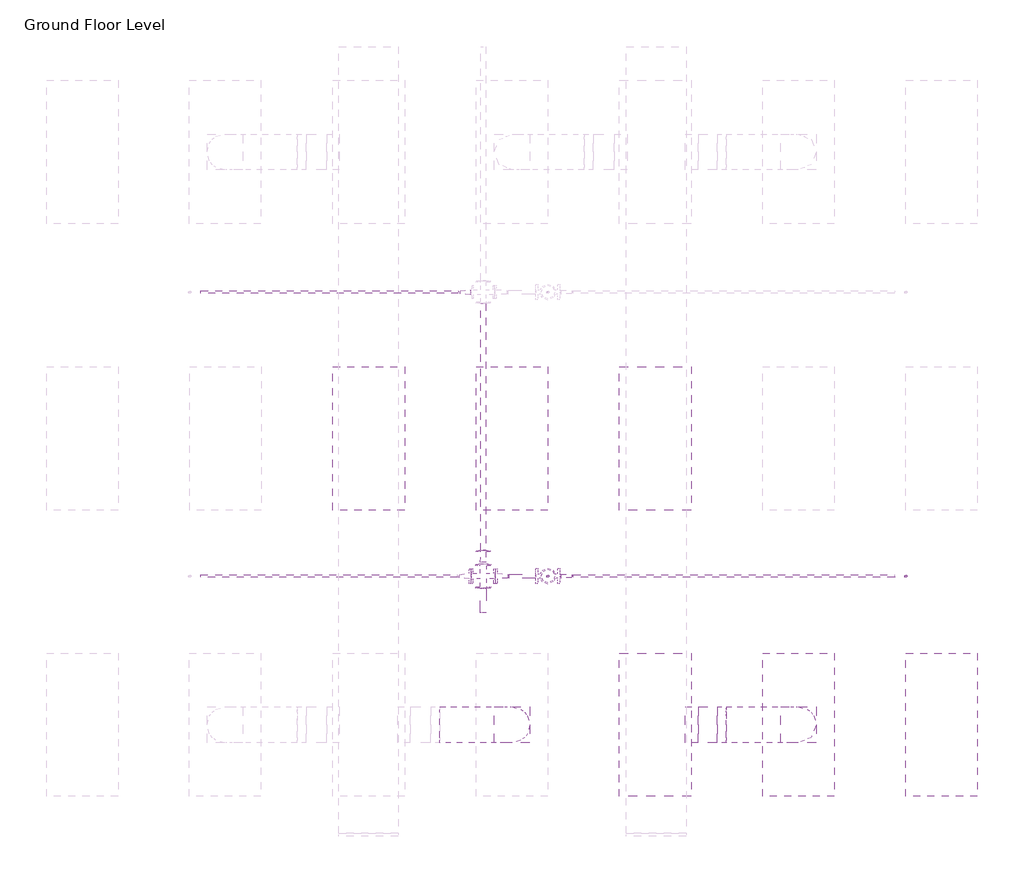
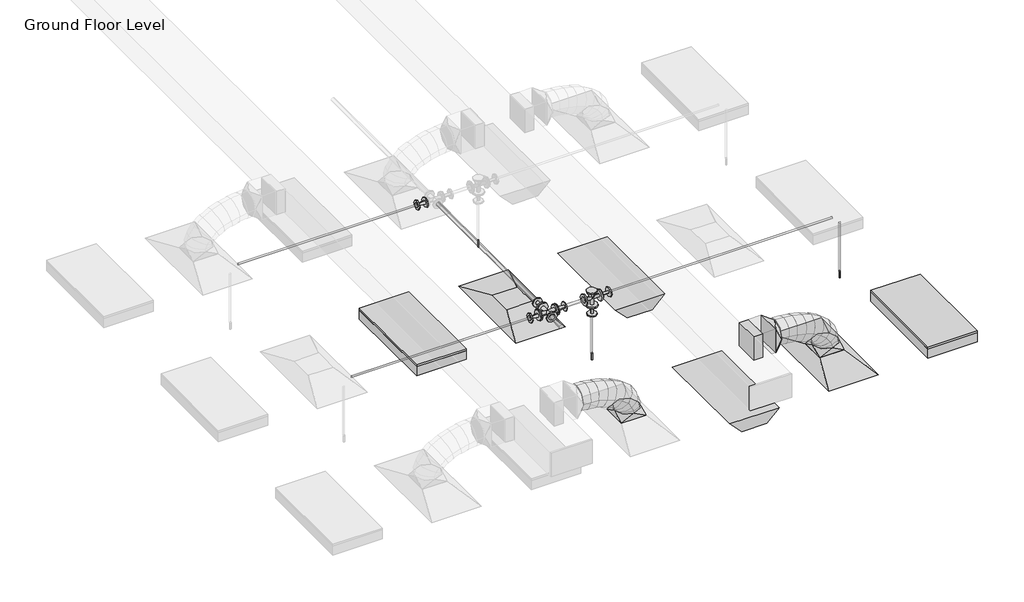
# One storey, part 44 of 66: 8 pipe fittings, 8 pipe segments, 4 duct fittings, 4 light fixtures, 3 duct segments, 3 fire suppression terminals, 2 air terminals.
"""IFC4 building model written with IfcOpenShell, lengths in millimetres."""

from ifc_helpers import new_model, si_unit, point, frame, frame_2d, origin, place, context, project, spatial, polyline, circle_curve, ellipse_curve, trimmed, segment, composite_curve, outline, extrude, transform, mapped, element, save
from ifc_brep_helpers import plane_surface, cylinder_surface, advanced_brep
from components import m_return_diffuser_1200x600_1200_x_600_face_300_x_300_d1983ef6, m_rectangular_takeoff_standard_cb0ccb98, m_rectangular_to_round_transition_angle_45_degree_641efff0, m_sprinkler_dry_pendent_hosted_15_mm_dry_pendent_9bda8e11, m_emergency_recessed_lighting_fixture_600x1200_277_5b10b25d, m_troffer_light_parabolic_rectangular1_0600x1200mm_4_lamp_86473d4a, m_cross_flanged_cs_class_150_standard_fc817054, m_reducer_flanged_cs_class_150_standard_ccf252ad, m_reducer_flanged_cs_class_150_standard_d42b2106, m_reducer_flanged_cs_class_150_standard_cc2a7c1d, m_reducer_flanged_cs_class_150_standard_83138b42, m_reducer_flanged_cs_class_150_standard_564df86d, m_reducer_flanged_cs_class_150_standard_8338f9e4, m_tee_round_base_flanged_cs_class_150_standard_7e5987a1

model = new_model("IFC4")

# Units and contexts
model_context = context("Model", 3, world=origin())
ifc_project = project(units=[si_unit("LENGTHUNIT", "METRE", prefix="MILLI")], contexts=[model_context])

# Site, building, storey
site = spatial("IfcSite", under=ifc_project)
building = spatial("IfcBuilding", under=site)
storey = spatial("IfcBuildingStorey", under=building, Name="Ground Floor Level", Elevation=900.0)

# Air terminals
placement = place(None, origin())
m_return_diffuser_1200x600_1200_x_600_face_300_x_300_shape = m_return_diffuser_1200x600_1200_x_600_face_300_x_300_d1983ef6(model_context)
element("IfcAirTerminal", 1, ObjectType="M_Return Diffuser 1200x600 : 1200 x 600 Face 300 x 300 Connection", at=placement, inside=storey, context=model_context, shape_type="MappedRepresentation", body=[
    mapped(m_return_diffuser_1200x600_1200_x_600_face_300_x_300_shape, transform((-5737.2327605, 4035.2153534, 3650.0), x_axis=(0.0, 1.0, 0.0), y_axis=(-1.0, 0.0, 0.0), z_axis=(0.0, 0.0, 1.0))),
])
element("IfcAirTerminal", 2, ObjectType="M_Supply Diffuser 1200x600 : 1200 x 600 Face 300 x 300 Connection", at=placement, inside=storey, context=model_context, shape_type="MappedRepresentation", body=[
    mapped(m_return_diffuser_1200x600_1200_x_600_face_300_x_300_shape, transform((-3337.2327605, 1635.2153534, 3650.0), x_axis=(0.0, 1.0, 0.0), y_axis=(-1.0, 0.0, 0.0), z_axis=(0.0, 0.0, 1.0))),
])

# Duct fittings
m_rectangular_takeoff_standard_shape = m_rectangular_takeoff_standard_cb0ccb98(model_context)
element("IfcDuctFitting", 3, ObjectType="M_Rectangular Takeoff : Standard", at=placement, inside=storey, context=model_context, shape_type="MappedRepresentation", body=[
    mapped(m_rectangular_takeoff_standard_shape, transform((-4278.6910789, 1635.2153534, 4150.0), x_axis=(1.0, 0.0, 0.0), y_axis=(0.0, -1.0, 0.0), z_axis=(0.0, 0.0, -1.0))),
])
m_rectangular_to_round_transition_angle_45_degree_shape = m_rectangular_to_round_transition_angle_45_degree_641efff0(model_context)
element("IfcDuctFitting", 4, ObjectType="M_Rectangular to Round Transition - Angle : 45 Degree", at=placement, inside=storey, context=model_context, shape_type="MappedRepresentation", body=[
    mapped(m_rectangular_to_round_transition_angle_45_degree_shape, transform((-5737.2327605, 1635.2153534, 3751.6), x_axis=(0.0, 0.0, 1.0), y_axis=(-1.0, 0.0, 0.0), z_axis=(0.0, -1.0, 0.0))),
])
element("IfcDuctFitting", 5, ObjectType="M_Rectangular to Round Transition - Angle : 45 Degree", at=placement, inside=storey, context=model_context, shape_type="MappedRepresentation", body=[
    mapped(m_rectangular_to_round_transition_angle_45_degree_shape, transform((-3337.2327605, 1635.2153534, 3751.6), x_axis=(0.0, 0.0, 1.0), y_axis=(-1.0, 0.0, 0.0), z_axis=(0.0, -1.0, 0.0))),
])
element("IfcDuctFitting", 6, ObjectType="M_Rectangular to Round Transition - Angle : 45 Degree", at=placement, inside=storey, context=model_context, shape_type="MappedRepresentation", body=[
    mapped(m_rectangular_to_round_transition_angle_45_degree_shape, transform((-4018.6354231, 1635.2153534, 4150.0), x_axis=(1.0, 0.0, 0.0), y_axis=(0.0, 1.0, 0.0), z_axis=(0.0, 0.0, 1.0))),
])

# Duct segments
element("IfcDuctSegment", 7, ObjectType="Flex - Round", at=placement, inside=storey, context=model_context, shape_type="AdvancedBrep", body=[
    advanced_brep(
    [(-5587.2327605, 1635.2153534, 3826.6), (-5737.2327605, 1485.2153534, 3826.6), (-5887.2327605, 1635.2153534, 3826.6), (-5737.2327605, 1785.2153534, 3826.6), (-5587.2327605, 1635.2153534, 3882.1261126), (-5737.2327605, 1485.2153534, 3857.3049615), (-5887.2327605, 1635.2153534, 3832.4838104), (-5737.2327605, 1785.2153534, 3857.3049615), (-5618.4260847, 1635.2153534, 3973.7995287), (-5753.8941651, 1485.2153534, 3906.2708192), (-5889.3622454, 1635.2153534, 3838.7421096), (-5753.8941651, 1785.2153534, 3906.2708192), (-5688.1600922, 1635.2153534, 4076.4123668), (-5799.7721827, 1485.2153534, 3973.7798261), (-5911.3842733, 1635.2153534, 3871.1472855), (-5799.7721827, 1785.2153534, 3973.7798261), (-5786.0880408, 1635.2153534, 4155.7111802), (-5868.7075193, 1485.2153534, 4029.6013814), (-5951.3269979, 1635.2153534, 3903.4915826), (-5868.7075193, 1785.2153534, 4029.6013814), (-5894.832581, 1635.2153534, 4212.226815), (-5954.5408807, 1485.2153534, 4074.2098454), (-6014.2491805, 1635.2153534, 3936.1928758), (-5954.5408807, 1785.2153534, 4074.2098454), (-6009.1243732, 1635.2153534, 4252.311196), (-6051.1129728, 1485.2153534, 4108.0795788), (-6093.1015724, 1635.2153534, 3963.8479616), (-6051.1129728, 1785.2153534, 4108.0795788), (-6124.8554478, 1635.2153534, 4279.3189347), (-6152.2645014, 1485.2153534, 4131.684942), (-6179.6735551, 1635.2153534, 3984.0509494), (-6152.2645014, 1785.2153534, 4131.684942), (-6237.5146065, 1635.2153534, 4294.9501488), (-6251.8361725, 1485.2153534, 4145.5002956), (-6266.1577385, 1635.2153534, 3996.0504424), (-6251.8361725, 1785.2153534, 4145.5002956), (-6332.3362491, 1635.2153534, 4300.0), (-6336.3276445, 1485.2153534, 4150.0), (-6340.31904, 1635.2153534, 4000.0), (-6336.3276445, 1785.2153534, 4150.0), (-6343.6686918, 1635.2153534, 4300.0), (-6343.6686918, 1785.2153534, 4150.0), (-6343.6686918, 1635.2153534, 4000.0), (-6343.6686918, 1485.2153534, 4150.0)],
    [
        (0, 1, circle_curve(frame((-5737.2327605, 1635.2153534, 3826.6), z_axis=(0.0, 0.0, -1.0), x_axis=(1.0, 0.0, 0.0)), 150.0)),
        (1, 2, circle_curve(frame((-5737.2327605, 1635.2153534, 3826.6), z_axis=(0.0, 0.0, -1.0), x_axis=(1.0, 0.0, 0.0)), 150.0)),
        (2, 3, circle_curve(frame((-5737.2327605, 1635.2153534, 3826.6), z_axis=(0.0, 0.0, -1.0), x_axis=(1.0, 0.0, 0.0)), 150.0)),
        (3, 0, circle_curve(frame((-5737.2327605, 1635.2153534, 3826.6), z_axis=(0.0, 0.0, -1.0), x_axis=(1.0, 0.0, 0.0)), 150.0)),
        (0, 4),
        (4, 5, ellipse_curve(frame((-5737.2327605, 1635.2153534, 3857.3049615), z_axis=(0.1632543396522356, 0.0, -0.9865840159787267), x_axis=(-0.9865840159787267, 0.0, -0.16325433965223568)), 152.039763, 150.0)),
        (5, 1),
        (5, 6, ellipse_curve(frame((-5737.2327605, 1635.2153534, 3857.3049615), z_axis=(0.1632543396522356, 0.0, -0.9865840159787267), x_axis=(-0.9865840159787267, 0.0, -0.16325433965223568)), 152.039763, 150.0)),
        (6, 2),
        (6, 7, ellipse_curve(frame((-5737.2327605, 1635.2153534, 3857.3049615), z_axis=(0.1632543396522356, 0.0, -0.9865840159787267), x_axis=(-0.9865840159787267, 0.0, -0.16325433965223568)), 152.039763, 150.0)),
        (7, 3),
        (7, 4, ellipse_curve(frame((-5737.2327605, 1635.2153534, 3857.3049615), z_axis=(0.1632543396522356, 0.0, -0.9865840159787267), x_axis=(-0.9865840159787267, 0.0, -0.16325433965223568)), 152.039763, 150.0)),
        (4, 8),
        (8, 9, ellipse_curve(frame((-5753.8941651, 1635.2153534, 3906.2708192), z_axis=(0.4461280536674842, 0.0, -0.8949691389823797), x_axis=(-0.8949691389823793, 0.0, -0.4461280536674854)), 151.366203, 150.0)),
        (9, 5),
        (9, 10, ellipse_curve(frame((-5753.8941651, 1635.2153534, 3906.2708192), z_axis=(0.4461280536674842, 0.0, -0.8949691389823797), x_axis=(-0.8949691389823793, 0.0, -0.4461280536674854)), 151.366203, 150.0)),
        (10, 6),
        (10, 11, ellipse_curve(frame((-5753.8941651, 1635.2153534, 3906.2708192), z_axis=(0.4461280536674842, 0.0, -0.8949691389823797), x_axis=(-0.8949691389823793, 0.0, -0.4461280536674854)), 151.366203, 150.0)),
        (11, 7),
        (11, 8, ellipse_curve(frame((-5753.8941651, 1635.2153534, 3906.2708192), z_axis=(0.4461280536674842, 0.0, -0.8949691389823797), x_axis=(-0.8949691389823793, 0.0, -0.4461280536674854)), 151.366203, 150.0)),
        (8, 12),
        (12, 13, ellipse_curve(frame((-5799.7721827, 1635.2153534, 3973.7798261), z_axis=(0.676875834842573, 0.0, -0.7360972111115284), x_axis=(-0.7360972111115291, 0.0, -0.6768758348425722)), 151.6268352, 150.0)),
        (13, 9),
        (13, 14, ellipse_curve(frame((-5799.7721827, 1635.2153534, 3973.7798261), z_axis=(0.676875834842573, 0.0, -0.7360972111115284), x_axis=(-0.7360972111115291, 0.0, -0.6768758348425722)), 151.6268352, 150.0)),
        (14, 10),
        (14, 15, ellipse_curve(frame((-5799.7721827, 1635.2153534, 3973.7798261), z_axis=(0.676875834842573, 0.0, -0.7360972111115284), x_axis=(-0.7360972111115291, 0.0, -0.6768758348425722)), 151.6268352, 150.0)),
        (15, 11),
        (15, 12, ellipse_curve(frame((-5799.7721827, 1635.2153534, 3973.7798261), z_axis=(0.676875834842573, 0.0, -0.7360972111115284), x_axis=(-0.7360972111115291, 0.0, -0.6768758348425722)), 151.6268352, 150.0)),
        (12, 16),
        (16, 17, ellipse_curve(frame((-5868.7075193, 1635.2153534, 4029.6013814), z_axis=(0.8364738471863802, 0.0, -0.5480068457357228), x_axis=(-0.5480068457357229, 0.0, -0.8364738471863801)), 150.7635884, 150.0)),
        (17, 13),
        (17, 18, ellipse_curve(frame((-5868.7075193, 1635.2153534, 4029.6013814), z_axis=(0.8364738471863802, 0.0, -0.5480068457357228), x_axis=(-0.5480068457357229, 0.0, -0.8364738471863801)), 150.7635884, 150.0)),
        (18, 14),
        (18, 19, ellipse_curve(frame((-5868.7075193, 1635.2153534, 4029.6013814), z_axis=(0.8364738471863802, 0.0, -0.5480068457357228), x_axis=(-0.5480068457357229, 0.0, -0.8364738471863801)), 150.7635884, 150.0)),
        (19, 15),
        (19, 16, ellipse_curve(frame((-5868.7075193, 1635.2153534, 4029.6013814), z_axis=(0.8364738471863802, 0.0, -0.5480068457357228), x_axis=(-0.5480068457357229, 0.0, -0.8364738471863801)), 150.7635884, 150.0)),
        (16, 20),
        (20, 21, ellipse_curve(frame((-5954.5408807, 1635.2153534, 4074.2098454), z_axis=(0.917795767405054, 0.0, -0.3970528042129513), x_axis=(-0.3970528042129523, 0.0, -0.9177957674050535)), 150.3787384, 150.0)),
        (21, 17),
        (21, 22, ellipse_curve(frame((-5954.5408807, 1635.2153534, 4074.2098454), z_axis=(0.917795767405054, 0.0, -0.3970528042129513), x_axis=(-0.3970528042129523, 0.0, -0.9177957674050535)), 150.3787384, 150.0)),
        (22, 18),
        (22, 23, ellipse_curve(frame((-5954.5408807, 1635.2153534, 4074.2098454), z_axis=(0.917795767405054, 0.0, -0.3970528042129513), x_axis=(-0.3970528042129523, 0.0, -0.9177957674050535)), 150.3787384, 150.0)),
        (23, 19),
        (23, 20, ellipse_curve(frame((-5954.5408807, 1635.2153534, 4074.2098454), z_axis=(0.917795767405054, 0.0, -0.3970528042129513), x_axis=(-0.3970528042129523, 0.0, -0.9177957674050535)), 150.3787384, 150.0)),
        (20, 24),
        (24, 25, ellipse_curve(frame((-6051.1129728, 1635.2153534, 4108.0795788), z_axis=(0.9601411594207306, 0.0, -0.2795155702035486), x_axis=(-0.27951557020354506, 0.0, -0.9601411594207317)), 150.2191795, 150.0)),
        (25, 21),
        (25, 26, ellipse_curve(frame((-6051.1129728, 1635.2153534, 4108.0795788), z_axis=(0.9601411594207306, 0.0, -0.2795155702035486), x_axis=(-0.27951557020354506, 0.0, -0.9601411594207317)), 150.2191795, 150.0)),
        (26, 22),
        (26, 27, ellipse_curve(frame((-6051.1129728, 1635.2153534, 4108.0795788), z_axis=(0.9601411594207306, 0.0, -0.2795155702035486), x_axis=(-0.27951557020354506, 0.0, -0.9601411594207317)), 150.2191795, 150.0)),
        (27, 23),
        (27, 24, ellipse_curve(frame((-6051.1129728, 1635.2153534, 4108.0795788), z_axis=(0.9601411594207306, 0.0, -0.2795155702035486), x_axis=(-0.27951557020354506, 0.0, -0.9601411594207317)), 150.2191795, 150.0)),
        (24, 28),
        (28, 29, ellipse_curve(frame((-6152.2645014, 1635.2153534, 4131.684942), z_axis=(0.9831991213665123, 0.0, -0.1825362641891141), x_axis=(-0.18253626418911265, 0.0, -0.9831991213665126)), 150.1567581, 150.0)),
        (29, 25),
        (29, 30, ellipse_curve(frame((-6152.2645014, 1635.2153534, 4131.684942), z_axis=(0.9831991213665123, 0.0, -0.1825362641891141), x_axis=(-0.18253626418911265, 0.0, -0.9831991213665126)), 150.1567581, 150.0)),
        (30, 26),
        (30, 31, ellipse_curve(frame((-6152.2645014, 1635.2153534, 4131.684942), z_axis=(0.9831991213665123, 0.0, -0.1825362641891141), x_axis=(-0.18253626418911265, 0.0, -0.9831991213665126)), 150.1567581, 150.0)),
        (31, 27),
        (31, 28, ellipse_curve(frame((-6152.2645014, 1635.2153534, 4131.684942), z_axis=(0.9831991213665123, 0.0, -0.1825362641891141), x_axis=(-0.18253626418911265, 0.0, -0.9831991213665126)), 150.1567581, 150.0)),
        (28, 32),
        (32, 33, ellipse_curve(frame((-6251.8361725, 1635.2153534, 4145.5002956), z_axis=(0.9954398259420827, 0.0, -0.09539157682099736), x_axis=(-0.09539157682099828, 0.0, -0.9954398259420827)), 150.1344926, 150.0)),
        (33, 29),
        (33, 34, ellipse_curve(frame((-6251.8361725, 1635.2153534, 4145.5002956), z_axis=(0.9954398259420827, 0.0, -0.09539157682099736), x_axis=(-0.09539157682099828, 0.0, -0.9954398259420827)), 150.1344926, 150.0)),
        (34, 30),
        (34, 35, ellipse_curve(frame((-6251.8361725, 1635.2153534, 4145.5002956), z_axis=(0.9954398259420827, 0.0, -0.09539157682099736), x_axis=(-0.09539157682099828, 0.0, -0.9954398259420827)), 150.1344926, 150.0)),
        (35, 31),
        (35, 32, ellipse_curve(frame((-6251.8361725, 1635.2153534, 4145.5002956), z_axis=(0.9954398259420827, 0.0, -0.09539157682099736), x_axis=(-0.09539157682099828, 0.0, -0.9954398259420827)), 150.1344926, 150.0)),
        (32, 36),
        (36, 37, ellipse_curve(frame((-6336.3276445, 1635.2153534, 4150.0), z_axis=(0.9996461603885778, 0.0, -0.026599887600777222), x_axis=(-0.026599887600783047, 0.0, -0.9996461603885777)), 150.0530947, 150.0)),
        (37, 33),
        (37, 38, ellipse_curve(frame((-6336.3276445, 1635.2153534, 4150.0), z_axis=(0.9996461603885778, 0.0, -0.026599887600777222), x_axis=(-0.026599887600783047, 0.0, -0.9996461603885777)), 150.0530947, 150.0)),
        (38, 34),
        (38, 39, ellipse_curve(frame((-6336.3276445, 1635.2153534, 4150.0), z_axis=(0.9996461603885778, 0.0, -0.026599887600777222), x_axis=(-0.026599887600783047, 0.0, -0.9996461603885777)), 150.0530947, 150.0)),
        (39, 35),
        (39, 36, ellipse_curve(frame((-6336.3276445, 1635.2153534, 4150.0), z_axis=(0.9996461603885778, 0.0, -0.026599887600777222), x_axis=(-0.026599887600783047, 0.0, -0.9996461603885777)), 150.0530947, 150.0)),
        (40, 41, circle_curve(frame((-6343.6686918, 1635.2153534, 4150.0), z_axis=(-1.0, 0.0, 0.0), x_axis=(0.0, 0.0, 1.0)), 150.0)),
        (41, 42, circle_curve(frame((-6343.6686918, 1635.2153534, 4150.0), z_axis=(-1.0, 0.0, 0.0), x_axis=(0.0, 0.0, 1.0)), 150.0)),
        (42, 43, circle_curve(frame((-6343.6686918, 1635.2153534, 4150.0), z_axis=(-1.0, 0.0, 0.0), x_axis=(0.0, 0.0, 1.0)), 150.0)),
        (43, 40, circle_curve(frame((-6343.6686918, 1635.2153534, 4150.0), z_axis=(-1.0, 0.0, 0.0), x_axis=(0.0, 0.0, 1.0)), 150.0)),
        (36, 40),
        (43, 37),
        (42, 38),
        (41, 39),
    ],
    [
        plane_surface(frame((-5737.2327605, 1485.2153534, 3826.6), z_axis=(0.0, 0.0, -1.0), x_axis=(1.0, 0.0, 0.0))),
        cylinder_surface(frame((-5737.2327605, 1635.2153534, 3826.6), z_axis=(0.0, 0.0, -1.0), x_axis=(1.0, 0.0, 0.0)), 150.0),
        cylinder_surface(frame((-5737.2327605, 1635.2153534, 3857.3049615), z_axis=(0.32212824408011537, 0.0, -0.946696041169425), x_axis=(0.946696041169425, 0.0, 0.32212824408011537)), 150.0),
        cylinder_surface(frame((-5753.8941651, 1635.2153534, 3906.2708192), z_axis=(0.5620745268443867, 0.0, -0.8270865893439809), x_axis=(0.8270865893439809, 0.0, 0.5620745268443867)), 150.0),
        cylinder_surface(frame((-5799.7721827, 1635.2153534, 3973.7798261), z_axis=(0.777152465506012, 0.0, -0.6293123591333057), x_axis=(0.6293123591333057, 0.0, 0.777152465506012)), 150.0),
        cylinder_surface(frame((-5868.7075193, 1635.2153534, 4029.6013814), z_axis=(0.887322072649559, 0.0, -0.4611502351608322), x_axis=(0.4611502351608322, 0.0, 0.887322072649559)), 150.0),
        cylinder_surface(frame((-5954.5408807, 1635.2153534, 4074.2098454), z_axis=(0.9436464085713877, 0.0, -0.3309553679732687), x_axis=(0.3309553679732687, 0.0, 0.9436464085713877)), 150.0),
        cylinder_surface(frame((-6051.1129728, 1635.2153534, 4108.0795788), z_axis=(0.9738340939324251, 0.0, -0.2272601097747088), x_axis=(0.2272601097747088, 0.0, 0.9738340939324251)), 150.0),
        cylinder_surface(frame((-6152.2645014, 1635.2153534, 4131.684942), z_axis=(0.9905113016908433, 0.0, -0.1374312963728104), x_axis=(0.1374312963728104, 0.0, 0.9905113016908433)), 150.0),
        cylinder_surface(frame((-6251.8361725, 1635.2153534, 4145.5002956), z_axis=(0.998584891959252, 0.0, -0.05318095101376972), x_axis=(0.05318095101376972, 0.0, 0.998584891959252)), 150.0),
        plane_surface(frame((-6343.6686918, 1635.2153534, 4000.0), z_axis=(-1.0, 0.0, 0.0), x_axis=(0.0, -1.0, 0.0))),
        cylinder_surface(frame((-6336.3276445, 1635.2153534, 4150.0), z_axis=(1.0, 0.0, 0.0), x_axis=(0.0, 0.0, 1.0)), 150.0),
    ],
    [
        (0, [[1, 2, 3, 4]]),
        (1, [[-1, 5, 6, 7]]),
        (1, [[-2, -7, 8, 9]]),
        (1, [[-3, -9, 10, 11]]),
        (1, [[-4, -11, 12, -5]]),
        (2, [[-6, 13, 14, 15]]),
        (2, [[-8, -15, 16, 17]]),
        (2, [[-10, -17, 18, 19]]),
        (2, [[-12, -19, 20, -13]]),
        (3, [[-14, 21, 22, 23]]),
        (3, [[-16, -23, 24, 25]]),
        (3, [[-18, -25, 26, 27]]),
        (3, [[-20, -27, 28, -21]]),
        (4, [[-22, 29, 30, 31]]),
        (4, [[-24, -31, 32, 33]]),
        (4, [[-26, -33, 34, 35]]),
        (4, [[-28, -35, 36, -29]]),
        (5, [[-30, 37, 38, 39]]),
        (5, [[-32, -39, 40, 41]]),
        (5, [[-34, -41, 42, 43]]),
        (5, [[-36, -43, 44, -37]]),
        (6, [[-38, 45, 46, 47]]),
        (6, [[-40, -47, 48, 49]]),
        (6, [[-42, -49, 50, 51]]),
        (6, [[-44, -51, 52, -45]]),
        (7, [[-46, 53, 54, 55]]),
        (7, [[-48, -55, 56, 57]]),
        (7, [[-50, -57, 58, 59]]),
        (7, [[-52, -59, 60, -53]]),
        (8, [[-54, 61, 62, 63]]),
        (8, [[-56, -63, 64, 65]]),
        (8, [[-58, -65, 66, 67]]),
        (8, [[-60, -67, 68, -61]]),
        (9, [[-62, 69, 70, 71]]),
        (9, [[-64, -71, 72, 73]]),
        (9, [[-66, -73, 74, 75]]),
        (9, [[-68, -75, 76, -69]]),
        (10, [[77, 78, 79, 80]]),
        (11, [[-70, 81, -80, 82]]),
        (11, [[-72, -82, -79, 83]]),
        (11, [[-74, -83, -78, 84]]),
        (11, [[-76, -84, -77, -81]]),
    ],
),
])
element("IfcDuctSegment", 8, ObjectType="Flex - Round", at=placement, inside=storey, context=model_context, shape_type="AdvancedBrep", body=[
    advanced_brep(
    [(-3187.2327605, 1635.2153534, 3826.6), (-3337.2327605, 1485.2153534, 3826.6), (-3487.2327605, 1635.2153534, 3826.6), (-3337.2327605, 1785.2153534, 3826.6), (-3187.2327605, 1635.2153534, 3882.1248592), (-3337.2327605, 1485.2153534, 3857.3041834), (-3487.2327605, 1635.2153534, 3832.4835076), (-3337.2327605, 1785.2153534, 3857.3041834), (-3218.4243187, 1635.2153534, 3973.7949392), (-3353.8931369, 1485.2153534, 3906.2680098), (-3489.3619552, 1635.2153534, 3838.7410804), (-3353.8931369, 1785.2153534, 3906.2680098), (-3288.1539292, 1635.2153534, 4076.405552), (-3399.7683605, 1485.2153534, 3973.775698), (-3511.3827919, 1635.2153534, 3871.1458441), (-3399.7683605, 1785.2153534, 3973.775698), (-3386.0764792, 1635.2153534, 4155.7044937), (-3468.6995729, 1485.2153534, 4029.5970813), (-3551.3226667, 1635.2153534, 3903.4896689), (-3468.6995729, 1785.2153534, 4029.5970813), (-3494.8156459, 1635.2153534, 4212.2214394), (-3554.5279158, 1485.2153534, 4074.206176), (-3614.2401856, 1635.2153534, 3936.1909126), (-3554.5279158, 1785.2153534, 4074.206176), (-3609.1022421, 1635.2153534, 4252.3075608), (-3651.0945306, 1485.2153534, 4108.0769988), (-3693.0868191, 1635.2153534, 3963.8464368), (-3651.0945306, 1785.2153534, 4108.0769988), (-3724.828557, 1635.2153534, 4279.3170349), (-3752.240559, 1485.2153534, 4131.683566), (-3779.652561, 1635.2153534, 3984.0500972), (-3752.240559, 1785.2153534, 4131.683566), (-3837.483737, 1635.2153534, 4294.9495984), (-3851.8071426, 1485.2153534, 4145.4998943), (-3866.1305483, 1635.2153534, 3996.0501901), (-3851.8071426, 1785.2153534, 4145.4998943), (-3932.3013868, 1635.2153534, 4300.0), (-3936.2933845, 1485.2153534, 4150.0), (-3940.2853822, 1635.2153534, 4000.0), (-3936.2933845, 1785.2153534, 4150.0), (-3943.6354231, 1635.2153534, 4300.0), (-3943.6354231, 1785.2153534, 4150.0), (-3943.6354231, 1635.2153534, 4000.0), (-3943.6354231, 1485.2153534, 4150.0)],
    [
        (0, 1, circle_curve(frame((-3337.2327605, 1635.2153534, 3826.6), z_axis=(0.0, 0.0, -1.0), x_axis=(1.0, 0.0, 0.0)), 150.0)),
        (1, 2, circle_curve(frame((-3337.2327605, 1635.2153534, 3826.6), z_axis=(0.0, 0.0, -1.0), x_axis=(1.0, 0.0, 0.0)), 150.0)),
        (2, 3, circle_curve(frame((-3337.2327605, 1635.2153534, 3826.6), z_axis=(0.0, 0.0, -1.0), x_axis=(1.0, 0.0, 0.0)), 150.0)),
        (3, 0, circle_curve(frame((-3337.2327605, 1635.2153534, 3826.6), z_axis=(0.0, 0.0, -1.0), x_axis=(1.0, 0.0, 0.0)), 150.0)),
        (0, 4),
        (4, 5, ellipse_curve(frame((-3337.2327605, 1635.2153534, 3857.3041834), z_axis=(0.16325129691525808, 0.0, -0.9865845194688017), x_axis=(-0.9865845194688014, 0.0, -0.16325129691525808)), 152.0396854, 150.0)),
        (5, 1),
        (5, 6, ellipse_curve(frame((-3337.2327605, 1635.2153534, 3857.3041834), z_axis=(0.16325129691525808, 0.0, -0.9865845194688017), x_axis=(-0.9865845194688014, 0.0, -0.16325129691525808)), 152.0396854, 150.0)),
        (6, 2),
        (6, 7, ellipse_curve(frame((-3337.2327605, 1635.2153534, 3857.3041834), z_axis=(0.16325129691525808, 0.0, -0.9865845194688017), x_axis=(-0.9865845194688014, 0.0, -0.16325129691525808)), 152.0396854, 150.0)),
        (7, 3),
        (7, 4, ellipse_curve(frame((-3337.2327605, 1635.2153534, 3857.3041834), z_axis=(0.16325129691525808, 0.0, -0.9865845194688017), x_axis=(-0.9865845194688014, 0.0, -0.16325129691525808)), 152.0396854, 150.0)),
        (4, 8),
        (8, 9, ellipse_curve(frame((-3353.8931369, 1635.2153534, 3906.2680098), z_axis=(0.4461166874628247, 0.0, -0.894974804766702), x_axis=(-0.8949748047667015, 0.0, -0.4461166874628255)), 151.3660692, 150.0)),
        (9, 5),
        (9, 10, ellipse_curve(frame((-3353.8931369, 1635.2153534, 3906.2680098), z_axis=(0.4461166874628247, 0.0, -0.894974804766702), x_axis=(-0.8949748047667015, 0.0, -0.4461166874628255)), 151.3660692, 150.0)),
        (10, 6),
        (10, 11, ellipse_curve(frame((-3353.8931369, 1635.2153534, 3906.2680098), z_axis=(0.4461166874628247, 0.0, -0.894974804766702), x_axis=(-0.8949748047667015, 0.0, -0.4461166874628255)), 151.3660692, 150.0)),
        (11, 7),
        (11, 8, ellipse_curve(frame((-3353.8931369, 1635.2153534, 3906.2680098), z_axis=(0.4461166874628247, 0.0, -0.894974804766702), x_axis=(-0.8949748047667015, 0.0, -0.4461166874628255)), 151.3660692, 150.0)),
        (8, 12),
        (12, 13, ellipse_curve(frame((-3399.7683605, 1635.2153534, 3973.775698), z_axis=(0.6768585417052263, 0.0, -0.7361131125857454), x_axis=(-0.736113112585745, 0.0, -0.6768585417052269)), 151.6267398, 150.0)),
        (13, 9),
        (13, 14, ellipse_curve(frame((-3399.7683605, 1635.2153534, 3973.775698), z_axis=(0.6768585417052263, 0.0, -0.7361131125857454), x_axis=(-0.736113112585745, 0.0, -0.6768585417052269)), 151.6267398, 150.0)),
        (14, 10),
        (14, 15, ellipse_curve(frame((-3399.7683605, 1635.2153534, 3973.775698), z_axis=(0.6768585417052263, 0.0, -0.7361131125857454), x_axis=(-0.736113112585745, 0.0, -0.6768585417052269)), 151.6267398, 150.0)),
        (15, 11),
        (15, 12, ellipse_curve(frame((-3399.7683605, 1635.2153534, 3973.775698), z_axis=(0.6768585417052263, 0.0, -0.7361131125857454), x_axis=(-0.736113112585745, 0.0, -0.6768585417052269)), 151.6267398, 150.0)),
        (12, 16),
        (16, 17, ellipse_curve(frame((-3468.6995729, 1635.2153534, 4029.5970813), z_axis=(0.8364581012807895, 0.0, -0.5480308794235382), x_axis=(-0.5480308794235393, 0.0, -0.8364581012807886)), 150.7635735, 150.0)),
        (17, 13),
        (17, 18, ellipse_curve(frame((-3468.6995729, 1635.2153534, 4029.5970813), z_axis=(0.8364581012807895, 0.0, -0.5480308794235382), x_axis=(-0.5480308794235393, 0.0, -0.8364581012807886)), 150.7635735, 150.0)),
        (18, 14),
        (18, 19, ellipse_curve(frame((-3468.6995729, 1635.2153534, 4029.5970813), z_axis=(0.8364581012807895, 0.0, -0.5480308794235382), x_axis=(-0.5480308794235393, 0.0, -0.8364581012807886)), 150.7635735, 150.0)),
        (19, 15),
        (19, 16, ellipse_curve(frame((-3468.6995729, 1635.2153534, 4029.5970813), z_axis=(0.8364581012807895, 0.0, -0.5480308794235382), x_axis=(-0.5480308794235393, 0.0, -0.8364581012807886)), 150.7635735, 150.0)),
        (16, 20),
        (20, 21, ellipse_curve(frame((-3554.5279158, 1635.2153534, 4074.206176), z_axis=(0.9177843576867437, 0.0, -0.3970791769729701), x_axis=(-0.39707917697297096, 0.0, -0.9177843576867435)), 150.3787488, 150.0)),
        (21, 17),
        (21, 22, ellipse_curve(frame((-3554.5279158, 1635.2153534, 4074.206176), z_axis=(0.9177843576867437, 0.0, -0.3970791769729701), x_axis=(-0.39707917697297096, 0.0, -0.9177843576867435)), 150.3787488, 150.0)),
        (22, 18),
        (22, 23, ellipse_curve(frame((-3554.5279158, 1635.2153534, 4074.206176), z_axis=(0.9177843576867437, 0.0, -0.3970791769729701), x_axis=(-0.39707917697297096, 0.0, -0.9177843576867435)), 150.3787488, 150.0)),
        (23, 19),
        (23, 20, ellipse_curve(frame((-3554.5279158, 1635.2153534, 4074.206176), z_axis=(0.9177843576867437, 0.0, -0.3970791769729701), x_axis=(-0.39707917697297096, 0.0, -0.9177843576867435)), 150.3787488, 150.0)),
        (20, 24),
        (24, 25, ellipse_curve(frame((-3651.0945306, 1635.2153534, 4108.0769988), z_axis=(0.9601340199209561, 0.0, -0.27954009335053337), x_axis=(-0.2795400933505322, 0.0, -0.9601340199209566)), 150.2191975, 150.0)),
        (25, 21),
        (25, 26, ellipse_curve(frame((-3651.0945306, 1635.2153534, 4108.0769988), z_axis=(0.9601340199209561, 0.0, -0.27954009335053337), x_axis=(-0.2795400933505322, 0.0, -0.9601340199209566)), 150.2191975, 150.0)),
        (26, 22),
        (26, 27, ellipse_curve(frame((-3651.0945306, 1635.2153534, 4108.0769988), z_axis=(0.9601340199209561, 0.0, -0.27954009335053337), x_axis=(-0.2795400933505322, 0.0, -0.9601340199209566)), 150.2191975, 150.0)),
        (27, 23),
        (27, 24, ellipse_curve(frame((-3651.0945306, 1635.2153534, 4108.0769988), z_axis=(0.9601340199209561, 0.0, -0.27954009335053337), x_axis=(-0.2795400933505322, 0.0, -0.9601340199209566)), 150.2191975, 150.0)),
        (24, 28),
        (28, 29, ellipse_curve(frame((-3752.240559, 1635.2153534, 4131.683566), z_axis=(0.983195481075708, 0.0, -0.1825558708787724), x_axis=(-0.18255587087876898, 0.0, -0.9831954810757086)), 150.1567813, 150.0)),
        (29, 25),
        (29, 30, ellipse_curve(frame((-3752.240559, 1635.2153534, 4131.683566), z_axis=(0.983195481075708, 0.0, -0.1825558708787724), x_axis=(-0.18255587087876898, 0.0, -0.9831954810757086)), 150.1567813, 150.0)),
        (30, 26),
        (30, 31, ellipse_curve(frame((-3752.240559, 1635.2153534, 4131.683566), z_axis=(0.983195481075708, 0.0, -0.1825558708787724), x_axis=(-0.18255587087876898, 0.0, -0.9831954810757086)), 150.1567813, 150.0)),
        (31, 27),
        (31, 28, ellipse_curve(frame((-3752.240559, 1635.2153534, 4131.683566), z_axis=(0.983195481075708, 0.0, -0.1825558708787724), x_axis=(-0.18255587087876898, 0.0, -0.9831954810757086)), 150.1567813, 150.0)),
        (28, 32),
        (32, 33, ellipse_curve(frame((-3851.8071426, 1635.2153534, 4145.4998943), z_axis=(0.995438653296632, 0.0, -0.09540381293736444), x_axis=(-0.09540381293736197, 0.0, -0.9954386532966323)), 150.1345197, 150.0)),
        (33, 29),
        (33, 34, ellipse_curve(frame((-3851.8071426, 1635.2153534, 4145.4998943), z_axis=(0.995438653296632, 0.0, -0.09540381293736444), x_axis=(-0.09540381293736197, 0.0, -0.9954386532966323)), 150.1345197, 150.0)),
        (34, 30),
        (34, 35, ellipse_curve(frame((-3851.8071426, 1635.2153534, 4145.4998943), z_axis=(0.995438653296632, 0.0, -0.09540381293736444), x_axis=(-0.09540381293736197, 0.0, -0.9954386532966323)), 150.1345197, 150.0)),
        (35, 31),
        (35, 32, ellipse_curve(frame((-3851.8071426, 1635.2153534, 4145.4998943), z_axis=(0.995438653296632, 0.0, -0.09540381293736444), x_axis=(-0.09540381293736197, 0.0, -0.9954386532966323)), 150.1345197, 150.0)),
        (32, 36),
        (36, 37, ellipse_curve(frame((-3936.2933845, 1635.2153534, 4150.0), z_axis=(0.9996460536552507, 0.0, -0.026603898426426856), x_axis=(-0.026603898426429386, 0.0, -0.9996460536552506)), 150.0531108, 150.0)),
        (37, 33),
        (37, 38, ellipse_curve(frame((-3936.2933845, 1635.2153534, 4150.0), z_axis=(0.9996460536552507, 0.0, -0.026603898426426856), x_axis=(-0.026603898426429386, 0.0, -0.9996460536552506)), 150.0531108, 150.0)),
        (38, 34),
        (38, 39, ellipse_curve(frame((-3936.2933845, 1635.2153534, 4150.0), z_axis=(0.9996460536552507, 0.0, -0.026603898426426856), x_axis=(-0.026603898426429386, 0.0, -0.9996460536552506)), 150.0531108, 150.0)),
        (39, 35),
        (39, 36, ellipse_curve(frame((-3936.2933845, 1635.2153534, 4150.0), z_axis=(0.9996460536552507, 0.0, -0.026603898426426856), x_axis=(-0.026603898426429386, 0.0, -0.9996460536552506)), 150.0531108, 150.0)),
        (40, 41, circle_curve(frame((-3943.6354231, 1635.2153534, 4150.0), z_axis=(-1.0, 0.0, 0.0), x_axis=(0.0, 0.0, 1.0)), 150.0)),
        (41, 42, circle_curve(frame((-3943.6354231, 1635.2153534, 4150.0), z_axis=(-1.0, 0.0, 0.0), x_axis=(0.0, 0.0, 1.0)), 150.0)),
        (42, 43, circle_curve(frame((-3943.6354231, 1635.2153534, 4150.0), z_axis=(-1.0, 0.0, 0.0), x_axis=(0.0, 0.0, 1.0)), 150.0)),
        (43, 40, circle_curve(frame((-3943.6354231, 1635.2153534, 4150.0), z_axis=(-1.0, 0.0, 0.0), x_axis=(0.0, 0.0, 1.0)), 150.0)),
        (36, 40),
        (43, 37),
        (42, 38),
        (41, 39),
    ],
    [
        plane_surface(frame((-3337.2327605, 1485.2153534, 3826.6), z_axis=(0.0, 0.0, -1.0), x_axis=(1.0, 0.0, 0.0))),
        cylinder_surface(frame((-3337.2327605, 1635.2153534, 3826.6), z_axis=(0.0, 0.0, -1.0), x_axis=(1.0, 0.0, 0.0)), 150.0),
        cylinder_surface(frame((-3337.2327605, 1635.2153534, 3857.3041834), z_axis=(0.3221224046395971, 0.0, -0.9466980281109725), x_axis=(0.9466980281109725, 0.0, 0.3221224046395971)), 150.0),
        cylinder_surface(frame((-3353.8931369, 1635.2153534, 3906.2680098), z_axis=(0.5620586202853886, 0.0, -0.827097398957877), x_axis=(0.827097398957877, 0.0, 0.5620586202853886)), 150.0),
        cylinder_surface(frame((-3399.7683605, 1635.2153534, 3973.775698), z_axis=(0.7771349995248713, 0.0, -0.6293339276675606), x_axis=(0.6293339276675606, 0.0, 0.7771349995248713)), 150.0),
        cylinder_surface(frame((-3468.6995729, 1635.2153534, 4029.5970813), z_axis=(0.887308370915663, 0.0, -0.46117659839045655), x_axis=(0.46117659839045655, 0.0, 0.887308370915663)), 150.0),
        cylinder_surface(frame((-3554.5279158, 1635.2153534, 4074.206176), z_axis=(0.9436372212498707, 0.0, -0.3309815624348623), x_axis=(0.3309815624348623, 0.0, 0.9436372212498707)), 150.0),
        cylinder_surface(frame((-3651.0945306, 1635.2153534, 4108.0769988), z_axis=(0.9738287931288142, 0.0, -0.22728282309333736), x_axis=(0.22728282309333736, 0.0, 0.9738287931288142)), 150.0),
        cylinder_surface(frame((-3752.240559, 1635.2153534, 4131.683566), z_axis=(0.9905090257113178, 0.0, -0.13744769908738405), x_axis=(0.13744769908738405, 0.0, 0.9905090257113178)), 150.0),
        cylinder_surface(frame((-3851.8071426, 1635.2153534, 4145.4998943), z_axis=(0.9985844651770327, 0.0, -0.05318896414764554), x_axis=(0.05318896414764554, 0.0, 0.9985844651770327)), 150.0),
        plane_surface(frame((-3943.6354231, 1635.2153534, 4000.0), z_axis=(-1.0, 0.0, 0.0), x_axis=(0.0, -1.0, 0.0))),
        cylinder_surface(frame((-3936.2933845, 1635.2153534, 4150.0), z_axis=(1.0, 0.0, 0.0), x_axis=(0.0, 0.0, 1.0)), 150.0),
    ],
    [
        (0, [[1, 2, 3, 4]]),
        (1, [[-1, 5, 6, 7]]),
        (1, [[-2, -7, 8, 9]]),
        (1, [[-3, -9, 10, 11]]),
        (1, [[-4, -11, 12, -5]]),
        (2, [[-6, 13, 14, 15]]),
        (2, [[-8, -15, 16, 17]]),
        (2, [[-10, -17, 18, 19]]),
        (2, [[-12, -19, 20, -13]]),
        (3, [[-14, 21, 22, 23]]),
        (3, [[-16, -23, 24, 25]]),
        (3, [[-18, -25, 26, 27]]),
        (3, [[-20, -27, 28, -21]]),
        (4, [[-22, 29, 30, 31]]),
        (4, [[-24, -31, 32, 33]]),
        (4, [[-26, -33, 34, 35]]),
        (4, [[-28, -35, 36, -29]]),
        (5, [[-30, 37, 38, 39]]),
        (5, [[-32, -39, 40, 41]]),
        (5, [[-34, -41, 42, 43]]),
        (5, [[-36, -43, 44, -37]]),
        (6, [[-38, 45, 46, 47]]),
        (6, [[-40, -47, 48, 49]]),
        (6, [[-42, -49, 50, 51]]),
        (6, [[-44, -51, 52, -45]]),
        (7, [[-46, 53, 54, 55]]),
        (7, [[-48, -55, 56, 57]]),
        (7, [[-50, -57, 58, 59]]),
        (7, [[-52, -59, 60, -53]]),
        (8, [[-54, 61, 62, 63]]),
        (8, [[-56, -63, 64, 65]]),
        (8, [[-58, -65, 66, 67]]),
        (8, [[-60, -67, 68, -61]]),
        (9, [[-62, 69, 70, 71]]),
        (9, [[-64, -71, 72, 73]]),
        (9, [[-66, -73, 74, 75]]),
        (9, [[-68, -75, 76, -69]]),
        (10, [[77, 78, 79, 80]]),
        (11, [[-70, 81, -80, 82]]),
        (11, [[-72, -82, -79, 83]]),
        (11, [[-74, -83, -78, 84]]),
        (11, [[-76, -84, -77, -81]]),
    ],
),
])
element("IfcDuctSegment", 9, ObjectType="Radius Elbows / Taps", at=placement, inside=storey, context=model_context, shape_type="SweptSolid", body=[
    extrude(outline(polyline([(-4177.0910789, 1485.2153534), (-4177.0910789, 1785.2153534), (-4018.6354231, 1785.2153534), (-4018.6354231, 1485.2153534), (-4177.0910789, 1485.2153534)])), frame((0.0, 0.0, 4000.0), z_axis=(0.0, 0.0, 1.0), x_axis=(1.0, 0.0, 0.0)), (0.0, 0.0, 1.0), 300.0),
])

# Fire suppression terminals
m_sprinkler_dry_pendent_hosted_15_mm_dry_pendent_shape = m_sprinkler_dry_pendent_hosted_15_mm_dry_pendent_9bda8e11(model_context)
element("IfcFireSuppressionTerminal", 10, ObjectType="M_Sprinkler - Dry - Pendent - Hosted : 15 mm Dry Pendent", at=placement, inside=storey, context=model_context, shape_type="MappedRepresentation", body=[
    mapped(m_sprinkler_dry_pendent_hosted_15_mm_dry_pendent_shape, transform((-5437.2327605, 5261.0372753, 3650.0), x_axis=(1.0, 0.0, 0.0), y_axis=(0.0, -1.0, 0.0), z_axis=(0.0, 0.0, -1.0))),
])
element("IfcFireSuppressionTerminal", 11, ObjectType="M_Sprinkler - Dry - Pendent - Hosted : 15 mm Dry Pendent", at=placement, inside=storey, context=model_context, shape_type="MappedRepresentation", body=[
    mapped(m_sprinkler_dry_pendent_hosted_15_mm_dry_pendent_shape, transform((-2437.2327605, 2881.5134565, 3650.0), x_axis=(1.0, 0.0, 0.0), y_axis=(0.0, -1.0, 0.0), z_axis=(0.0, 0.0, -1.0))),
])
element("IfcFireSuppressionTerminal", 12, ObjectType="M_Sprinkler - Dry - Pendent - Hosted : 15 mm Dry Pendent", at=placement, inside=storey, context=model_context, shape_type="MappedRepresentation", body=[
    mapped(m_sprinkler_dry_pendent_hosted_15_mm_dry_pendent_shape, transform((-5437.2327605, 2881.5134565, 3650.0), x_axis=(1.0, 0.0, 0.0), y_axis=(0.0, -1.0, 0.0), z_axis=(0.0, 0.0, -1.0))),
])

# Light fixtures
m_emergency_recessed_lighting_fixture_600x1200_277_shape = m_emergency_recessed_lighting_fixture_600x1200_277_5b10b25d(model_context)
element("IfcLightFixture", 13, ObjectType="M_Emergency Recessed Lighting Fixture : 600x1200 - 277", at=placement, inside=storey, context=model_context, shape_type="MappedRepresentation", body=[
    mapped(m_emergency_recessed_lighting_fixture_600x1200_277_shape, transform((-4837.2327605, 3435.2153534, 3650.0), x_axis=(0.0, 1.0, 0.0), y_axis=(-1.0, 0.0, 0.0), z_axis=(0.0, 0.0, 1.0))),
])
element("IfcLightFixture", 14, ObjectType="M_Emergency Recessed Lighting Fixture : 600x1200 - 277", at=placement, inside=storey, context=model_context, shape_type="MappedRepresentation", body=[
    mapped(m_emergency_recessed_lighting_fixture_600x1200_277_shape, transform((-4837.2327605, 1035.2153534, 3650.0), x_axis=(0.0, 1.0, 0.0), y_axis=(-1.0, 0.0, 0.0), z_axis=(0.0, 0.0, 1.0))),
])
m_troffer_light_parabolic_rectangular1_0600x1200mm_4_lamp_shape = m_troffer_light_parabolic_rectangular1_0600x1200mm_4_lamp_86473d4a(model_context)
element("IfcLightFixture", 15, ObjectType="M_Troffer Light - Parabolic Rectangular1 : 0600x1200mm(4 Lamp) - 277V 2", at=placement, inside=storey, context=model_context, shape_type="MappedRepresentation", body=[
    mapped(m_troffer_light_parabolic_rectangular1_0600x1200mm_4_lamp_shape, transform((-6996.6986926, 4053.918855, 3650.0), x_axis=(0.0, 1.0, 0.0), y_axis=(-1.0, 0.0, 0.0), z_axis=(0.0, 0.0, 1.0))),
])
element("IfcLightFixture", 16, ObjectType="M_Troffer Light - Parabolic Rectangular1 : 0600x1200mm(4 Lamp) - 277V 2", at=placement, inside=storey, context=model_context, shape_type="MappedRepresentation", body=[
    mapped(m_troffer_light_parabolic_rectangular1_0600x1200mm_4_lamp_shape, transform((-2196.6986926, 1653.918855, 3650.0), x_axis=(0.0, 1.0, 0.0), y_axis=(-1.0, 0.0, 0.0), z_axis=(0.0, 0.0, 1.0))),
])

# Pipe fittings
m_cross_flanged_cs_class_150_standard_shape = m_cross_flanged_cs_class_150_standard_fc817054(model_context)
element("IfcPipeFitting", 17, ObjectType="M_Cross - Flanged - CS - Class 150 : Standard", at=placement, inside=storey, context=model_context, shape_type="MappedRepresentation", body=[
    mapped(m_cross_flanged_cs_class_150_standard_shape, transform((-5978.130502, 2881.5134565, 4360.0), x_axis=(0.0, 1.0, 0.0), y_axis=(1.0, 0.0, 0.0), z_axis=(0.0, 0.0, -1.0))),
])
m_reducer_flanged_cs_class_150_standard_shape = m_reducer_flanged_cs_class_150_standard_ccf252ad(model_context)
element("IfcPipeFitting", 18, ObjectType="M_Reducer - Flanged - CS - Class 150 : Standard", at=placement, inside=storey, context=model_context, shape_type="MappedRepresentation", body=[
    mapped(m_reducer_flanged_cs_class_150_standard_shape, transform((-5437.2327605, 2881.5134565, 4259.2914063), x_axis=(0.0, 0.0, -1.0), y_axis=(-1.0, 0.0, 0.0), z_axis=(0.0, 1.0, 0.0))),
])
m_reducer_flanged_cs_class_150_standard_2_shape = m_reducer_flanged_cs_class_150_standard_d42b2106(model_context)
element("IfcPipeFitting", 19, ObjectType="M_Reducer - Flanged - CS - Class 150 : Standard", at=placement, inside=storey, context=model_context, shape_type="MappedRepresentation", body=[
    mapped(m_reducer_flanged_cs_class_150_standard_2_shape, transform((-5336.5241668, 2881.5134565, 4360.0), x_axis=(1.0, 0.0, 0.0), y_axis=(0.0, 1.0, 0.0), z_axis=(0.0, 0.0, 1.0))),
])
m_reducer_flanged_cs_class_150_standard_3_shape = m_reducer_flanged_cs_class_150_standard_cc2a7c1d(model_context)
element("IfcPipeFitting", 20, ObjectType="M_Reducer - Flanged - CS - Class 150 : Standard", at=placement, inside=storey, context=model_context, shape_type="MappedRepresentation", body=[
    mapped(m_reducer_flanged_cs_class_150_standard_3_shape, transform((-6073.130502, 5261.0372753, 4360.0), x_axis=(-1.0, 0.0, 0.0), y_axis=(0.0, 0.0, -1.0), z_axis=(0.0, -1.0, 0.0))),
])
m_reducer_flanged_cs_class_150_standard_4_shape = m_reducer_flanged_cs_class_150_standard_83138b42(model_context)
element("IfcPipeFitting", 21, ObjectType="M_Reducer - Flanged - CS - Class 150 : Standard", at=placement, inside=storey, context=model_context, shape_type="MappedRepresentation", body=[
    mapped(m_reducer_flanged_cs_class_150_standard_4_shape, transform((-6080.130502, 2881.5134565, 4360.0), x_axis=(-1.0, 0.0, 0.0), y_axis=(0.0, 0.0, -1.0), z_axis=(0.0, -1.0, 0.0))),
])
m_reducer_flanged_cs_class_150_standard_5_shape = m_reducer_flanged_cs_class_150_standard_564df86d(model_context)
element("IfcPipeFitting", 22, ObjectType="M_Reducer - Flanged - CS - Class 150 : Standard", at=placement, inside=storey, context=model_context, shape_type="MappedRepresentation", body=[
    mapped(m_reducer_flanged_cs_class_150_standard_5_shape, transform((-5978.130502, 2983.5134565, 4360.0), x_axis=(0.0, 1.0, 0.0), y_axis=(-1.0, 0.0, 0.0), z_axis=(0.0, 0.0, 1.0))),
])
m_reducer_flanged_cs_class_150_standard_6_shape = m_reducer_flanged_cs_class_150_standard_8338f9e4(model_context)
element("IfcPipeFitting", 23, ObjectType="M_Reducer - Flanged - CS - Class 150 : Standard", at=placement, inside=storey, context=model_context, shape_type="MappedRepresentation", body=[
    mapped(m_reducer_flanged_cs_class_150_standard_6_shape, transform((-5876.130502, 2881.5134565, 4360.0), x_axis=(1.0, 0.0, 0.0), y_axis=(0.0, 1.0, 0.0), z_axis=(0.0, 0.0, 1.0))),
])
m_tee_round_base_flanged_cs_class_150_standard_shape = m_tee_round_base_flanged_cs_class_150_standard_7e5987a1(model_context)
element("IfcPipeFitting", 24, ObjectType="M_Tee Round Base - Flanged - CS - Class 150 : Standard", at=placement, inside=storey, context=model_context, shape_type="MappedRepresentation", body=[
    mapped(m_tee_round_base_flanged_cs_class_150_standard_shape, transform((-5437.2327605, 2881.5134565, 4360.0), x_axis=(1.0, 0.0, 0.0), y_axis=(0.0, 0.0, 1.0), z_axis=(0.0, -1.0, 0.0))),
])

# Pipe segments
element("IfcPipeSegment", 25, ObjectType="Steel flanged", at=placement, inside=storey, context=model_context, shape_type="SweptSolid", body=[
    extrude(outline(composite_curve([segment(trimmed(circle_curve(frame_2d((5261.0372753, 4360.0)), 10.668), [point((5250.3692753, 4360.0))], [point((5261.0372753, 4370.668))], False, "CARTESIAN"), True, "CONTINUOUS"), segment(trimmed(circle_curve(frame_2d((5261.0372753, 4360.0)), 10.668), [point((5261.0372753, 4370.668))], [point((5271.7052753, 4360.0))], False, "CARTESIAN"), True, "CONTINUOUS"), segment(trimmed(circle_curve(frame_2d((5261.0372753, 4360.0)), 10.668), [point((5271.7052753, 4360.0))], [point((5261.0372753, 4349.332))], False, "CARTESIAN"), True, "CONTINUOUS"), segment(trimmed(circle_curve(frame_2d((5261.0372753, 4360.0)), 10.668), [point((5261.0372753, 4349.332))], [point((5250.3692753, 4360.0))], False, "CARTESIAN"), True, "CONTINUOUS")], self_intersect=False)), frame((-8344.2241668, 0.0, 0.0), z_axis=(1.0, 0.0, 0.0), x_axis=(0.0, 1.0, 0.0)), (0.0, 0.0, 1.0), 2157.0936648),
])
element("IfcPipeSegment", 26, ObjectType="Steel flanged", at=placement, inside=storey, context=model_context, shape_type="SweptSolid", body=[
    extrude(outline(composite_curve([segment(trimmed(circle_curve(frame_2d((2881.5134565, 4360.0)), 10.668), [point((2870.8454565, 4360.0))], [point((2881.5134565, 4370.668))], False, "CARTESIAN"), True, "CONTINUOUS"), segment(trimmed(circle_curve(frame_2d((2881.5134565, 4360.0)), 10.668), [point((2881.5134565, 4370.668))], [point((2892.1814565, 4360.0))], False, "CARTESIAN"), True, "CONTINUOUS"), segment(trimmed(circle_curve(frame_2d((2881.5134565, 4360.0)), 10.668), [point((2892.1814565, 4360.0))], [point((2881.5134565, 4349.332))], False, "CARTESIAN"), True, "CONTINUOUS"), segment(trimmed(circle_curve(frame_2d((2881.5134565, 4360.0)), 10.668), [point((2881.5134565, 4349.332))], [point((2870.8454565, 4360.0))], False, "CARTESIAN"), True, "CONTINUOUS")], self_intersect=False)), frame((-8344.2241668, 0.0, 0.0), z_axis=(1.0, 0.0, 0.0), x_axis=(0.0, 1.0, 0.0)), (0.0, 0.0, 1.0), 2150.0936648),
])
element("IfcPipeSegment", 27, ObjectType="Steel flanged", at=placement, inside=storey, context=model_context, shape_type="SweptSolid", body=[
    extrude(outline(composite_curve([segment(trimmed(circle_curve(frame_2d((0.0, -24.13)), 24.13), [point((0.0, 0.0))], [point((24.13, -24.13))], False, "CARTESIAN"), True, "CONTINUOUS"), segment(trimmed(circle_curve(frame_2d((0.0, -24.13)), 24.13), [point((24.13, -24.13))], [point((0.0, -48.26))], False, "CARTESIAN"), True, "CONTINUOUS"), segment(trimmed(circle_curve(frame_2d((0.0, -24.13)), 24.13), [point((0.0, -48.26))], [point((-24.13, -24.13))], False, "CARTESIAN"), True, "CONTINUOUS"), segment(trimmed(circle_curve(frame_2d((0.0, -24.13)), 24.13), [point((-24.13, -24.13))], [point((0.0, 0.0))], False, "CARTESIAN"), True, "CONTINUOUS")], self_intersect=False)), frame((-6002.260502, 2573.2009828, 4360.0), z_axis=(-1.0658141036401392e-12, 1.0, 0.0), x_axis=(0.0, 0.0, -1.0)), (0.0, 0.0, 1.0), 206.3124738),
])
element("IfcPipeSegment", 28, ObjectType="Steel flanged", at=placement, inside=storey, context=model_context, shape_type="SweptSolid", body=[
    extrude(outline(composite_curve([segment(trimmed(circle_curve(frame_2d((4360.0, -5978.130502)), 21.082), [point((4360.0, -5999.212502))], [point((4338.918, -5978.130502))], False, "CARTESIAN"), True, "CONTINUOUS"), segment(trimmed(circle_curve(frame_2d((4360.0, -5978.130502)), 21.082), [point((4338.918, -5978.130502))], [point((4360.0, -5957.048502))], False, "CARTESIAN"), True, "CONTINUOUS"), segment(trimmed(circle_curve(frame_2d((4360.0, -5978.130502)), 21.082), [point((4360.0, -5957.048502))], [point((4381.082, -5978.130502))], False, "CARTESIAN"), True, "CONTINUOUS"), segment(trimmed(circle_curve(frame_2d((4360.0, -5978.130502)), 21.082), [point((4381.082, -5978.130502))], [point((4360.0, -5999.212502))], False, "CARTESIAN"), True, "CONTINUOUS")], self_intersect=False)), frame((0.0, 3097.5134565, 0.0), z_axis=(0.0, 1.0, 0.0), x_axis=(0.0, 0.0, 1.0)), (0.0, 0.0, 1.0), 2068.5238188),
])
element("IfcPipeSegment", 29, ObjectType="Steel flanged", at=placement, inside=storey, context=model_context, shape_type="SweptSolid", body=[
    extrude(outline(composite_curve([segment(trimmed(circle_curve(frame_2d((-2437.2327605, 2881.5134565)), 10.668), [point((-2447.9007605, 2881.5134565))], [point((-2437.2327605, 2892.1814565))], False, "CARTESIAN"), True, "CONTINUOUS"), segment(trimmed(circle_curve(frame_2d((-2437.2327605, 2881.5134565)), 10.668), [point((-2437.2327605, 2892.1814565))], [point((-2426.5647605, 2881.5134565))], False, "CARTESIAN"), True, "CONTINUOUS"), segment(trimmed(circle_curve(frame_2d((-2437.2327605, 2881.5134565)), 10.668), [point((-2426.5647605, 2881.5134565))], [point((-2437.2327605, 2870.8454565))], False, "CARTESIAN"), True, "CONTINUOUS"), segment(trimmed(circle_curve(frame_2d((-2437.2327605, 2881.5134565)), 10.668), [point((-2437.2327605, 2870.8454565))], [point((-2447.9007605, 2881.5134565))], False, "CARTESIAN"), True, "CONTINUOUS")], self_intersect=False)), frame((0.0, 0.0, 3650.0), z_axis=(0.0, 0.0, 1.0), x_axis=(1.0, 0.0, 0.0)), (0.0, 0.0, 1.0), 616.9914063),
])
element("IfcPipeSegment", 30, ObjectType="Steel flanged", at=placement, inside=storey, context=model_context, shape_type="SweptSolid", body=[
    extrude(outline(composite_curve([segment(trimmed(circle_curve(frame_2d((-5437.2327605, 2881.5134565)), 10.668), [point((-5447.9007605, 2881.5134565))], [point((-5437.2327605, 2892.1814565))], False, "CARTESIAN"), True, "CONTINUOUS"), segment(trimmed(circle_curve(frame_2d((-5437.2327605, 2881.5134565)), 10.668), [point((-5437.2327605, 2892.1814565))], [point((-5426.5647605, 2881.5134565))], False, "CARTESIAN"), True, "CONTINUOUS"), segment(trimmed(circle_curve(frame_2d((-5437.2327605, 2881.5134565)), 10.668), [point((-5426.5647605, 2881.5134565))], [point((-5437.2327605, 2870.8454565))], False, "CARTESIAN"), True, "CONTINUOUS"), segment(trimmed(circle_curve(frame_2d((-5437.2327605, 2881.5134565)), 10.668), [point((-5437.2327605, 2870.8454565))], [point((-5447.9007605, 2881.5134565))], False, "CARTESIAN"), True, "CONTINUOUS")], self_intersect=False)), frame((0.0, 0.0, 3650.0), z_axis=(0.0, 0.0, 1.0), x_axis=(1.0, 0.0, 0.0)), (0.0, 0.0, 1.0), 495.2914062),
])
element("IfcPipeSegment", 31, ObjectType="Steel flanged", at=placement, inside=storey, context=model_context, shape_type="SweptSolid", body=[
    extrude(outline(composite_curve([segment(trimmed(circle_curve(frame_2d((2881.5134565, 4360.0)), 16.7005), [point((2898.2139565, 4360.0))], [point((2881.5134565, 4343.2995))], False, "CARTESIAN"), True, "CONTINUOUS"), segment(trimmed(circle_curve(frame_2d((2881.5134565, 4360.0)), 16.7005), [point((2881.5134565, 4343.2995))], [point((2864.8129565, 4360.0))], False, "CARTESIAN"), True, "CONTINUOUS"), segment(trimmed(circle_curve(frame_2d((2881.5134565, 4360.0)), 16.7005), [point((2864.8129565, 4360.0))], [point((2881.5134565, 4376.7005))], False, "CARTESIAN"), True, "CONTINUOUS"), segment(trimmed(circle_curve(frame_2d((2881.5134565, 4360.0)), 16.7005), [point((2881.5134565, 4376.7005))], [point((2898.2139565, 4360.0))], False, "CARTESIAN"), True, "CONTINUOUS")], self_intersect=False)), frame((-5762.130502, 0.0, 0.0), z_axis=(1.0, 0.0, 0.0), x_axis=(0.0, 1.0, 0.0)), (0.0, 0.0, 1.0), 224.1891477),
])
element("IfcPipeSegment", 32, ObjectType="Steel flanged", at=placement, inside=storey, context=model_context, shape_type="SweptSolid", body=[
    extrude(outline(composite_curve([segment(trimmed(circle_curve(frame_2d((2881.5134565, 4360.0)), 10.668), [point((2892.1814565, 4360.0))], [point((2881.5134565, 4349.332))], False, "CARTESIAN"), True, "CONTINUOUS"), segment(trimmed(circle_curve(frame_2d((2881.5134565, 4360.0)), 10.668), [point((2881.5134565, 4349.332))], [point((2870.8454565, 4360.0))], False, "CARTESIAN"), True, "CONTINUOUS"), segment(trimmed(circle_curve(frame_2d((2881.5134565, 4360.0)), 10.668), [point((2870.8454565, 4360.0))], [point((2881.5134565, 4370.668))], False, "CARTESIAN"), True, "CONTINUOUS"), segment(trimmed(circle_curve(frame_2d((2881.5134565, 4360.0)), 10.668), [point((2881.5134565, 4370.668))], [point((2892.1814565, 4360.0))], False, "CARTESIAN"), True, "CONTINUOUS")], self_intersect=False)), frame((-5222.5241668, 0.0, 0.0), z_axis=(1.0, 0.0, 0.0), x_axis=(0.0, 1.0, 0.0)), (0.0, 0.0, 1.0), 2692.2828125),
])

save(model, "model.ifc")
